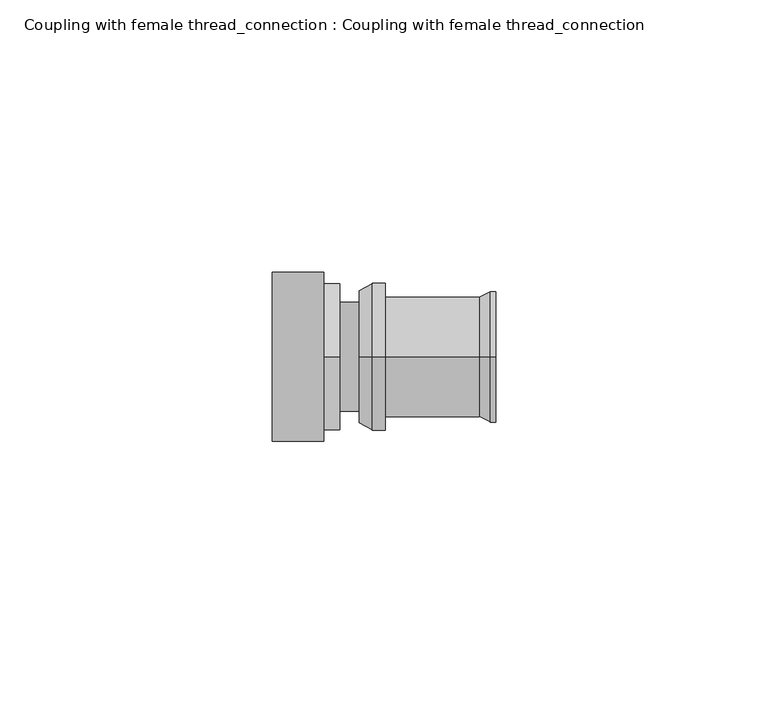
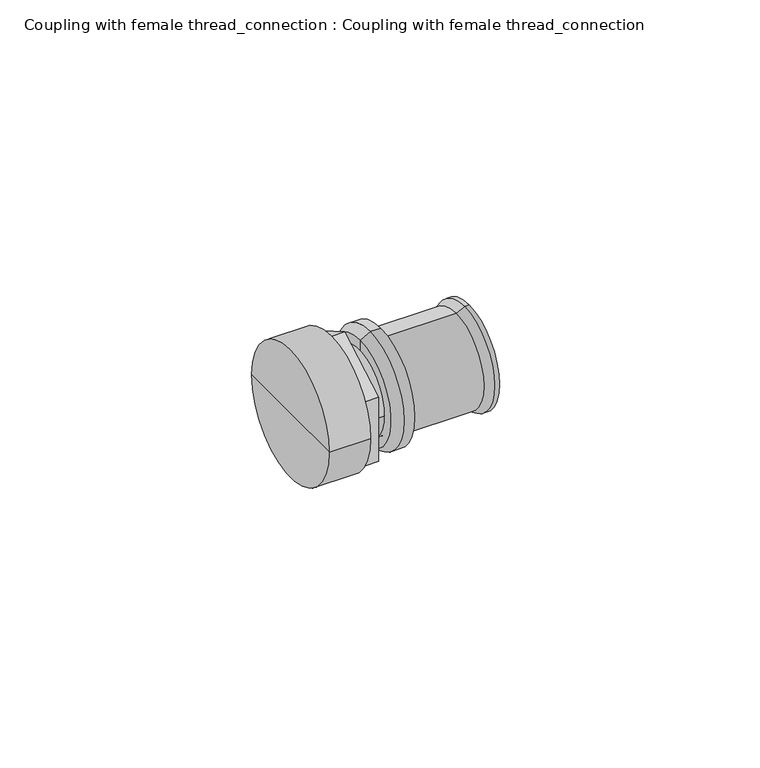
"""IFC4 building model written with IfcOpenShell, lengths in millimetres: pipe fitting geometry, Coupling with female thread_connection : Coupling with female thread_connection."""

from ifc_helpers import new_model, si_unit, frame, origin, place, context, project, spatial, polyline, circle_curve, source, transform, mapped, element, save
from ifc_brep_helpers import plane_surface, cylinder_surface, revolved_surface, advanced_brep


def coupling_with_female_thread_connection_coupling_with_female_763b2c51(model_context):
    return source(origin(), model_context, "Body", "AdvancedBrep", [
        advanced_brep(
        [(-1.0, 0.0, 0.0), (-1.0, 0.0, 12.1432269), (-1.0, 0.0, -12.1432269), (3.7, 0.0, -13.5), (3.7, 0.0, 13.5), (3.7, 0.0, 0.0), (1.35, 0.0, -13.5), (1.35, 0.0, 13.5)],
        [
            (0, 1),
            (1, 2, circle_curve(frame((-1.0, 0.0, 0.0), z_axis=(-1.0, 0.0, 0.0), x_axis=(0.0, 0.0, 1.0)), 12.1432269)),
            (2, 0),
            (2, 1, circle_curve(frame((-1.0, 0.0, 0.0), z_axis=(-1.0, 0.0, 0.0), x_axis=(0.0, 0.0, 1.0)), 12.1432269)),
            (3, 4, circle_curve(frame((3.7, 0.0, 0.0), z_axis=(1.0, 0.0, 0.0), x_axis=(0.0, 0.0, 1.0)), 13.5)),
            (4, 5),
            (5, 3),
            (4, 3, circle_curve(frame((3.7, 0.0, 0.0), z_axis=(1.0, 0.0, 0.0), x_axis=(0.0, 0.0, 1.0)), 13.5)),
            (6, 7, circle_curve(frame((1.35, 0.0, 0.0), z_axis=(1.0, 0.0, 0.0), x_axis=(0.0, 0.0, 1.0)), 13.5)),
            (7, 4),
            (3, 6),
            (7, 6, circle_curve(frame((1.35, 0.0, 0.0), z_axis=(1.0, 0.0, 0.0), x_axis=(0.0, 0.0, 1.0)), 13.5)),
            (1, 7),
            (6, 2),
        ],
        [
            plane_surface(frame((-1.0, 0.0, 0.0), z_axis=(-1.0, 0.0, 0.0), x_axis=(0.0, 0.0, 1.0))),
            plane_surface(frame((3.7, 0.0, 0.0), z_axis=(1.0, 0.0, 0.0), x_axis=(0.0, 0.0, 1.0))),
            cylinder_surface(frame((0.0, 0.0, 0.0), z_axis=(-1.0, 0.0, 0.0), x_axis=(0.0, 0.0, 1.0)), 13.5),
            revolved_surface(polyline([(1.35, 0.0, 13.5), (-1.0, 0.0, 12.1432269)]), (0.0, 0.0, 0.0), (-1.0, 0.0, 0.0)),
        ],
        [
            (0, [[1, 2, 3]]),
            (0, [[-3, 4, -1]]),
            (1, [[5, 6, 7]]),
            (1, [[8, -7, -6]]),
            (2, [[9, 10, -5, 11]]),
            (2, [[12, -11, -8, -10]]),
            (3, [[-2, 13, -9, 14]]),
            (3, [[-4, -14, -12, -13]]),
        ],
    ),
        advanced_brep(
        [(3.7, 0.0, -11.0), (3.7, 0.0, 11.0), (21.0, 0.0, 11.0), (21.0, 0.0, -11.0), (24.0, 0.0, -12.0), (24.0, 0.0, 12.0), (24.0, 0.0, 0.0), (3.7, 0.0, 0.0), (23.0, 0.0, -12.0), (23.0, 0.0, 12.0)],
        [
            (0, 1, circle_curve(frame((3.7, 0.0, 0.0), z_axis=(1.0, 0.0, 0.0), x_axis=(0.0, 0.0, 1.0)), 11.0)),
            (1, 2),
            (2, 3, circle_curve(frame((21.0, 0.0, 0.0), z_axis=(-1.0, 0.0, 0.0), x_axis=(0.0, 0.0, 1.0)), 11.0)),
            (3, 0),
            (1, 0, circle_curve(frame((3.7, 0.0, 0.0), z_axis=(1.0, 0.0, 0.0), x_axis=(0.0, 0.0, 1.0)), 11.0)),
            (3, 2, circle_curve(frame((21.0, 0.0, 0.0), z_axis=(-1.0, 0.0, 0.0), x_axis=(0.0, 0.0, 1.0)), 11.0)),
            (4, 5, circle_curve(frame((24.0, 0.0, 0.0), z_axis=(1.0, 0.0, 0.0), x_axis=(0.0, 0.0, 1.0)), 12.0)),
            (5, 6),
            (6, 4),
            (5, 4, circle_curve(frame((24.0, 0.0, 0.0), z_axis=(1.0, 0.0, 0.0), x_axis=(0.0, 0.0, 1.0)), 12.0)),
            (7, 1),
            (0, 7),
            (8, 9, circle_curve(frame((23.0, 0.0, 0.0), z_axis=(1.0, 0.0, 0.0), x_axis=(0.0, 0.0, 1.0)), 12.0)),
            (9, 5),
            (4, 8),
            (9, 8, circle_curve(frame((23.0, 0.0, 0.0), z_axis=(1.0, 0.0, 0.0), x_axis=(0.0, 0.0, 1.0)), 12.0)),
            (2, 9),
            (8, 3),
        ],
        [
            cylinder_surface(frame((-1911.8038476, 0.0, 0.0), z_axis=(-1.0, 0.0, 0.0), x_axis=(0.0, 0.0, 1.0)), 11.0),
            plane_surface(frame((24.0, 0.0, 0.0), z_axis=(1.0, 0.0, 0.0), x_axis=(0.0, 0.0, 1.0))),
            plane_surface(frame((3.7, 0.0, 0.0), z_axis=(-1.0, 0.0, 0.0), x_axis=(0.0, 0.0, 1.0))),
            cylinder_surface(frame((-1911.8038476, 0.0, 0.0), z_axis=(-1.0, 0.0, 0.0), x_axis=(0.0, 0.0, 1.0)), 12.0),
            revolved_surface(polyline([(23.0, 0.0, 12.0), (21.0, 0.0, 11.0)]), (-1911.8038476, 0.0, 0.0), (-1.0, 0.0, 0.0)),
        ],
        [
            (0, [[1, 2, 3, 4]]),
            (0, [[5, -4, 6, -2]]),
            (1, [[7, 8, 9]]),
            (1, [[10, -9, -8]]),
            (2, [[11, -1, 12]]),
            (2, [[-12, -5, -11]]),
            (3, [[13, 14, -7, 15]]),
            (3, [[16, -15, -10, -14]]),
            (4, [[-3, 17, -13, 18]]),
            (4, [[-6, -18, -16, -17]]),
        ],
    ),
        advanced_brep(
        [(-17.0, -15.5, 0.0), (-17.0, 15.5, 0.0), (-7.578675, 15.5, 0.0), (-7.578675, 13.4233938, -7.75), (-7.578675, 0.0, -15.5), (-7.578675, -13.4233938, -7.75), (-7.578675, -15.5, 0.0), (-7.578675, -13.4233938, 7.75), (-7.578675, 0.0, 15.5), (-7.578675, 13.4233938, 7.75), (-17.0, 0.0, 0.0), (0.0, -10.0, 0.0), (0.0, 10.0, 0.0), (0.0, 0.0, 0.0), (-4.578675, -10.0, 0.0), (-4.578675, 10.0, 0.0), (-7.578675, 13.4233938, 0.0), (-7.578675, -13.4233938, 0.0), (-4.578675, -13.4233938, 7.75), (-4.578675, -13.4233938, -7.75), (-4.578675, 0.0, -15.5), (-4.578675, 13.4233938, -7.75), (-4.578675, 13.4233938, 7.75), (-4.578675, 0.0, 15.5)],
        [
            (0, 1, circle_curve(frame((-17.0, 0.0, 0.0), z_axis=(1.0, 0.0, 0.0), x_axis=(0.0, 1.0, 0.0)), 15.5)),
            (1, 2),
            (2, 3, circle_curve(frame((-7.578675, 0.0, 0.0), z_axis=(-1.0, 0.0, 0.0), x_axis=(0.0, 1.0, 0.0)), 15.5)),
            (3, 4, circle_curve(frame((-7.578675, 0.0, 0.0), z_axis=(-1.0, 0.0, 0.0), x_axis=(0.0, 1.0, 0.0)), 15.5)),
            (4, 5, circle_curve(frame((-7.578675, 0.0, 0.0), z_axis=(-1.0, 0.0, 0.0), x_axis=(0.0, 1.0, 0.0)), 15.5)),
            (5, 6, circle_curve(frame((-7.578675, 0.0, 0.0), z_axis=(-1.0, 0.0, 0.0), x_axis=(0.0, 1.0, 0.0)), 15.5)),
            (6, 0),
            (1, 0, circle_curve(frame((-17.0, 0.0, 0.0), z_axis=(1.0, 0.0, 0.0), x_axis=(0.0, 1.0, 0.0)), 15.5)),
            (6, 7, circle_curve(frame((-7.578675, 0.0, 0.0), z_axis=(-1.0, 0.0, 0.0), x_axis=(0.0, 1.0, 0.0)), 15.5)),
            (7, 8, circle_curve(frame((-7.578675, 0.0, 0.0), z_axis=(-1.0, 0.0, 0.0), x_axis=(0.0, 1.0, 0.0)), 15.5)),
            (8, 9, circle_curve(frame((-7.578675, 0.0, 0.0), z_axis=(-1.0, 0.0, 0.0), x_axis=(0.0, 1.0, 0.0)), 15.5)),
            (9, 2, circle_curve(frame((-7.578675, 0.0, 0.0), z_axis=(-1.0, 0.0, 0.0), x_axis=(0.0, 1.0, 0.0)), 15.5)),
            (0, 10),
            (10, 1),
            (11, 12, circle_curve(frame((0.0, 0.0, 0.0), z_axis=(1.0, 0.0, 0.0), x_axis=(0.0, 1.0, 0.0)), 10.0)),
            (12, 13),
            (13, 11),
            (12, 11, circle_curve(frame((0.0, 0.0, 0.0), z_axis=(1.0, 0.0, 0.0), x_axis=(0.0, 1.0, 0.0)), 10.0)),
            (11, 14),
            (14, 15, circle_curve(frame((-4.578675, 0.0, 0.0), z_axis=(1.0, 0.0, 0.0), x_axis=(0.0, 1.0, 0.0)), 10.0)),
            (15, 12),
            (15, 14, circle_curve(frame((-4.578675, 0.0, 0.0), z_axis=(1.0, 0.0, 0.0), x_axis=(0.0, 1.0, 0.0)), 10.0)),
            (2, 16),
            (16, 3),
            (3, 4),
            (4, 5),
            (5, 17),
            (17, 6),
            (17, 7),
            (7, 8),
            (8, 9),
            (9, 16),
            (18, 19),
            (19, 20),
            (20, 21),
            (21, 22),
            (22, 23),
            (23, 18),
            (18, 7),
            (5, 19),
            (4, 20),
            (3, 21),
            (9, 22),
            (8, 23),
        ],
        [
            cylinder_surface(frame((0.0, 0.0, 0.0), z_axis=(-1.0, 0.0, 0.0), x_axis=(0.0, 1.0, 0.0)), 15.5),
            plane_surface(frame((-17.0, 0.0, 0.0), z_axis=(-1.0, 0.0, 0.0), x_axis=(0.0, 1.0, 0.0))),
            plane_surface(frame((0.0, 0.0, 0.0), z_axis=(1.0, 0.0, 0.0), x_axis=(0.0, 1.0, 0.0))),
            cylinder_surface(frame((0.0, 0.0, 0.0), z_axis=(-1.0, 0.0, 0.0), x_axis=(0.0, 1.0, 0.0)), 10.0),
            plane_surface(frame((-7.578675, 0.0, 0.0), z_axis=(1.0, 0.0, 0.0), x_axis=(0.0, 1.0, 0.0))),
            plane_surface(frame((-4.578675, -13.4233938, 7.75), z_axis=(1.0, 0.0, 0.0), x_axis=(0.0, 0.0, -1.0))),
            plane_surface(frame((-4.578675, -13.4233938, 7.75), z_axis=(0.0, -1.0, 0.0), x_axis=(-1.0, 0.0, 0.0))),
            plane_surface(frame((-4.578675, -13.4233938, -7.75), z_axis=(0.0, -0.5000000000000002, -0.8660254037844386), x_axis=(-1.0, 0.0, 0.0))),
            plane_surface(frame((-4.578675, 0.0, -15.5), z_axis=(0.0, 0.5000000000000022, -0.8660254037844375), x_axis=(-1.0, 0.0, 0.0))),
            plane_surface(frame((-4.578675, 13.4233938, -7.75), z_axis=(0.0, 1.0, 0.0), x_axis=(-1.0, 0.0, 0.0))),
            plane_surface(frame((-4.578675, 13.4233938, 7.75), z_axis=(0.0, 0.5000000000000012, 0.866025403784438), x_axis=(-1.0, 0.0, 0.0))),
            plane_surface(frame((-4.578675, 0.0, 15.5), z_axis=(0.0, -0.5000000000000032, 0.8660254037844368), x_axis=(-1.0, 0.0, 0.0))),
        ],
        [
            (0, [[1, 2, 3, 4, 5, 6, 7]]),
            (0, [[-2, 8, -7, 9, 10, 11, 12]]),
            (1, [[-1, 13, 14]]),
            (1, [[-8, -14, -13]]),
            (2, [[15, 16, 17]]),
            (2, [[-16, 18, -17]]),
            (3, [[-15, 19, 20, 21]]),
            (3, [[-18, -21, 22, -19]]),
            (4, [[-3, 23, 24]]),
            (4, [[-4, 25]]),
            (4, [[-5, 26]]),
            (4, [[-6, 27, 28]]),
            (4, [[-9, -28, 29]]),
            (4, [[-10, 30]]),
            (4, [[-11, 31]]),
            (4, [[-12, 32, -23]]),
            (5, [[33, 34, 35, 36, 37, 38], [-20, -22]]),
            (6, [[-33, 39, -29, -27, 40]]),
            (7, [[-34, -40, -26, 41]]),
            (8, [[-35, -41, -25, 42]]),
            (9, [[-36, -42, -24, -32, 43]]),
            (10, [[-37, -43, -31, 44]]),
            (11, [[-38, -44, -30, -39]]),
        ],
    ),
    ])


if __name__ == "__main__":
    model = new_model("IFC4")
    model_context = context("Model", 3, world=origin())
    ifc_project = project(units=[si_unit("LENGTHUNIT", "METRE", prefix="MILLI")], contexts=[model_context])
    site = spatial("IfcSite", under=ifc_project)
    building = spatial("IfcBuilding", under=site)
    placement = place(None, origin())
    coupling_with_female_thread_connection_coupling_with_female_shape = coupling_with_female_thread_connection_coupling_with_female_763b2c51(model_context)
    element("IfcPipeFitting", 1, ObjectType="Coupling with female thread_connection : Coupling with female thread_connection", at=placement, inside=building, context=model_context, shape_type="MappedRepresentation", body=[
        mapped(coupling_with_female_thread_connection_coupling_with_female_shape, transform((0.0, 0.0, 0.0), x_axis=(1.0, 0.0, 0.0), y_axis=(0.0, 1.0, 0.0), z_axis=(0.0, 0.0, 1.0))),
    ])
    save(model, "model.ifc")
